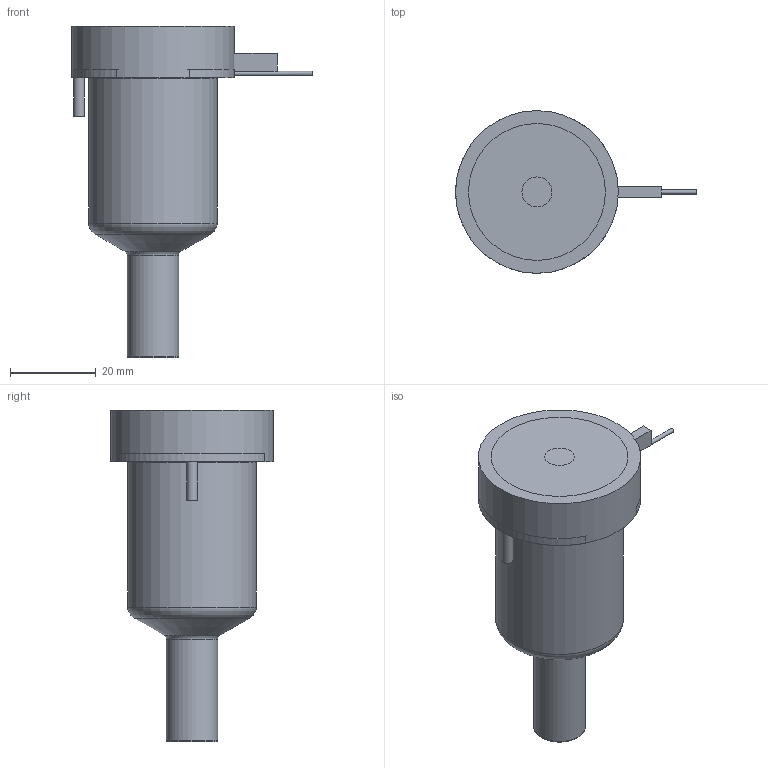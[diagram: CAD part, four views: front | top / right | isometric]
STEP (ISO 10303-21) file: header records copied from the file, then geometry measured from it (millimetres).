
FILE_DESCRIPTION(/* description */ (''),/* implementation_level */ '2;1');
FILE_NAME(/* name */ 'BXYCN16045P4U_200C_a',/* time_stamp */ '2016-02-23T09:20:07+13:00',/* author */ (''),/* organization */ (''),/* preprocessor_version */ 'ST-DEVELOPER v9',/* originating_system */ 'UGS - NX 4.0',/* authorisation */ '');
FILE_SCHEMA (('CONFIG_CONTROL_DESIGN'));
Length unit declared in the file: millimetre
Products named in the file (1): matt48E8yt0c
Bounding box: 56.25 x 38 x 77.39 mm (x, y, z)
Volume: 75832.4 mm3; surface area: 16572.9 mm2
Topology: 2 solids, 2 shells, 67 faces, 149 edges, 97 vertices
Faces by surface type: plane 31, cylinder 22, torus 7, cone 5, bspline 1, sphere 1
Full cylindrical faces by diameter (mm): 1 x2, 1.5 x1, 2.5 x1, 5 x1, 7 x1, 11.61 x1, 11.995 x2, 14.8 x1, 25.4 x1, 30 x1, 38 x1
Entity records: 1951 total; most frequent: CARTESIAN_POINT 487, DIRECTION 302, ORIENTED_EDGE 234, AXIS2_PLACEMENT_3D 130, EDGE_CURVE 117, EDGE_LOOP 104, VERTEX_POINT 89, ADVANCED_FACE 67
